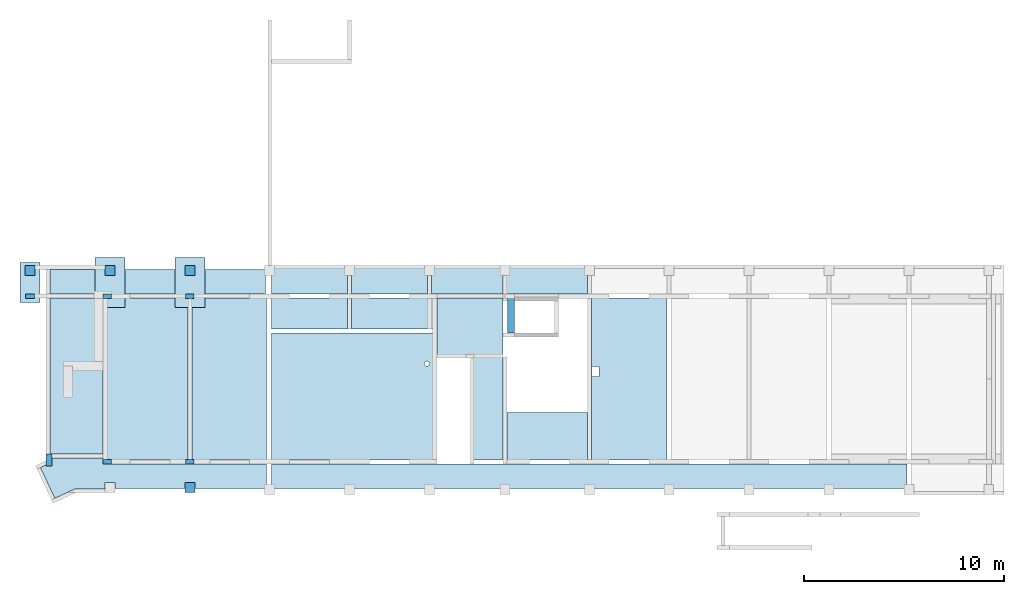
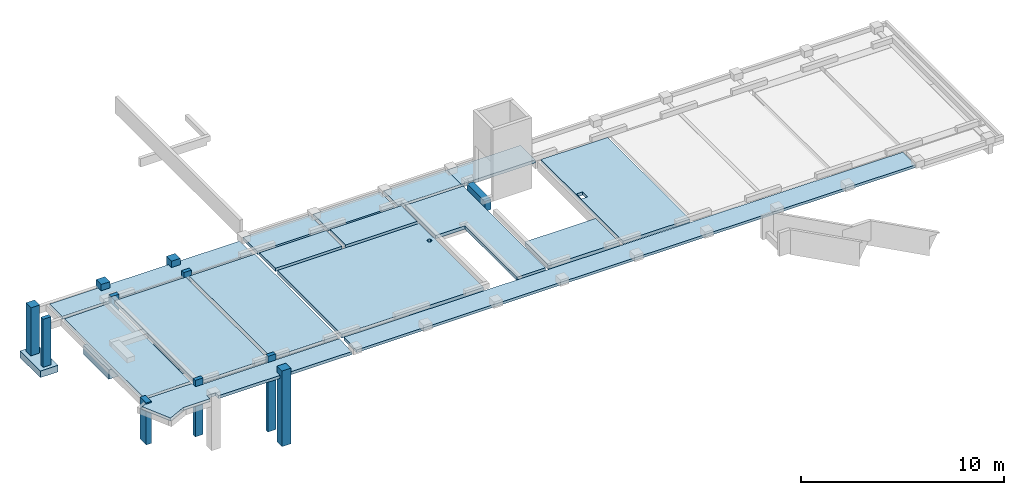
# One storey, part 3 of 5: 30 slabs, 2 openings.
"""IFC2X3 building model written with IfcOpenShell, lengths in metres."""

from ifc_helpers import new_model, entity, si_unit, converted_unit, derived_unit, direction, frame, frame_2d, origin, origin_2d_with_axis, place, context, subcontext, project, spatial, polyline, rectangle, circle, outline, extrude, clip, halfspace, bounded_halfspace, material, layer, layer_set, layer_usage, type_object, element, save


model = new_model("IFC2X3")

# Units and contexts
model_context = context("Model", 3, precision=1e-05, world=origin(), true_north=direction((6.12303176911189e-17, 1.0)))
body_context = subcontext(model_context, "Body", "Model", "MODEL_VIEW")
ifc_project = project(units=[si_unit("LENGTHUNIT", "METRE"), si_unit("AREAUNIT", "SQUARE_METRE"), si_unit("VOLUMEUNIT", "CUBIC_METRE"), converted_unit("PLANEANGLEUNIT", "DEGREE", entity("IfcRatioMeasure", 0.0174532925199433), si_unit("PLANEANGLEUNIT", "RADIAN"), dimensions=[0, 0, 0, 0, 0, 0, 0]), si_unit("MASSUNIT", "GRAM", prefix="KILO"), derived_unit("MASSDENSITYUNIT", [(si_unit("MASSUNIT", "GRAM", prefix="KILO"), 1), (si_unit("LENGTHUNIT", "METRE"), -3)]), si_unit("TIMEUNIT", "SECOND"), si_unit("FREQUENCYUNIT", "HERTZ"), si_unit("THERMODYNAMICTEMPERATUREUNIT", "DEGREE_CELSIUS"), derived_unit("THERMALTRANSMITTANCEUNIT", [(si_unit("MASSUNIT", "GRAM", prefix="KILO"), 1), (si_unit("THERMODYNAMICTEMPERATUREUNIT", "KELVIN"), -1), (si_unit("TIMEUNIT", "SECOND"), -3)]), derived_unit("VOLUMETRICFLOWRATEUNIT", [(si_unit("LENGTHUNIT", "METRE"), 3), (si_unit("TIMEUNIT", "SECOND"), -1)]), si_unit("ELECTRICCURRENTUNIT", "AMPERE"), si_unit("ELECTRICVOLTAGEUNIT", "VOLT"), si_unit("POWERUNIT", "WATT"), si_unit("FORCEUNIT", "NEWTON"), si_unit("ILLUMINANCEUNIT", "LUX"), si_unit("LUMINOUSFLUXUNIT", "LUMEN"), si_unit("LUMINOUSINTENSITYUNIT", "CANDELA"), derived_unit("USERDEFINED", [(si_unit("MASSUNIT", "GRAM", prefix="KILO"), -1), (si_unit("LENGTHUNIT", "METRE"), -2), (si_unit("TIMEUNIT", "SECOND"), 3), (si_unit("LUMINOUSFLUXUNIT", "LUMEN"), 1)]), derived_unit("LINEARVELOCITYUNIT", [(si_unit("LENGTHUNIT", "METRE"), 1), (si_unit("TIMEUNIT", "SECOND"), -1)]), si_unit("PRESSUREUNIT", "PASCAL"), derived_unit("USERDEFINED", [(si_unit("LENGTHUNIT", "METRE"), -2), (si_unit("MASSUNIT", "GRAM", prefix="KILO"), 1), (si_unit("TIMEUNIT", "SECOND"), -2)])], contexts=[model_context])

# Site, building, storey
site_placement = place(None, origin())
site = spatial("IfcSite", under=ifc_project, at=site_placement, Name="Default", CompositionType="ELEMENT")
building_placement = place(site_placement, origin())
building = spatial("IfcBuilding", under=site, at=building_placement, CompositionType="ELEMENT")
storey_placement = place(building_placement, origin())
storey = spatial("IfcBuildingStorey", under=building, at=storey_placement, Name="S01", CompositionType="ELEMENT", Elevation=0.0)

# Slabs
ifc_material_1 = material(Name="Sol par défaut")
ifc_layer_1 = layer(ifc_material_1, 0.2)
ifc_layer_set_1 = layer_set([ifc_layer_1], Name="Floor:Dalle BA ép.20")
ifc_layer_usage_1 = layer_usage(ifc_layer_set_1, "AXIS3", "POSITIVE", 0.0)
slab_type_1 = type_object("IfcSlabType", Name="Floor:Dalle BA ép.20", PredefinedType="FLOOR", material=ifc_layer_set_1)
slab_1_placement = place(storey_placement, origin())
element("IfcSlab", 1, at=slab_1_placement, inside=storey, type_object=slab_type_1, material=ifc_layer_usage_1, Name="Floor:Dalle BA ép.20", ObjectType="Floor:Dalle BA ép.20", PredefinedType="FLOOR", context=body_context, shape_type="SweptSolid", body=[
    extrude(rectangle(XDim=1.55799999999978, YDim=3.7999999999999, at=frame_2d((1.73194791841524e-14, 2.1094237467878e-15), x_axis=(1.0, 0.0))), frame((35.4897436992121, -185.935488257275, -0.00999999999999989), z_axis=(0.0, 0.0, -1.0), x_axis=(0.0, 1.0, 0.0)), (0.0, 0.0, 1.0), 0.2),
])
ifc_layer_usage_2 = layer_usage(ifc_layer_set_1, "AXIS3", "POSITIVE", 0.0)
slab_type_2 = type_object("IfcSlabType", Name="Floor:Dalle BA ép.20", PredefinedType="FLOOR", material=ifc_layer_set_1)
slab_2_placement = place(storey_placement, origin())
element("IfcSlab", 2, at=slab_2_placement, inside=storey, type_object=slab_type_2, material=ifc_layer_usage_2, Name="Floor:Dalle BA ép.20", ObjectType="Floor:Dalle BA ép.20", PredefinedType="FLOOR", context=body_context, shape_type="SweptSolid", body=[
    extrude(rectangle(XDim=1.55799999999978, YDim=4.07000000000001, at=frame_2d((-1.73194791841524e-14, -2.22044604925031e-15), x_axis=(1.0, 0.0))), frame((39.6247436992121, -185.935488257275, -0.00999999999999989), z_axis=(0.0, 0.0, -1.0), x_axis=(0.0, 1.0, 0.0)), (0.0, 0.0, 1.0), 0.2),
])

# Slab, opening
ifc_layer_2 = layer(ifc_material_1, 0.22)
ifc_layer_set_2 = layer_set([ifc_layer_2], Name="Floor:Dalle BA ép.22")
ifc_layer_usage_3 = layer_usage(ifc_layer_set_2, "AXIS3", "POSITIVE", 0.0)
slab_type_3 = type_object("IfcSlabType", Name="Floor:Dalle BA ép.22", PredefinedType="FLOOR", material=ifc_layer_set_2)
slab_3_placement = place(storey_placement, frame((33.5897436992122, -193.259651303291, -0.23)))
slab_3 = element("IfcSlab", 3, at=slab_3_placement, inside=storey, type_object=slab_type_3, material=ifc_layer_usage_3, Name="Floor:Dalle BA ép.22", ObjectType="Floor:Dalle BA ép.22", PredefinedType="FLOOR", context=body_context, shape_type="SweptSolid", body=[
    extrude(rectangle(XDim=6.34516304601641, YDim=8.06999999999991, at=frame_2d((0.0, 0.0), x_axis=(0.0, -1.0))), frame((4.03499999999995, 3.17258152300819, 0.22), z_axis=(0.0, 0.0, -1.0), x_axis=(-1.0, 0.0, 0.0)), (0.0, 0.0, 1.0), 0.22),
])
opening_1_placement = place(slab_3_placement, frame((7.76768381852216, 4.81810752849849, 0.22)))
element("IfcOpeningElement", 4, at=opening_1_placement, cuts=slab_3, Name="Floor:Dalle BA ép.22:2", ObjectType="Opening", context=body_context, shape_type="SweptSolid", body=[
    extrude(circle(Radius=0.124999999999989, at=origin_2d_with_axis()), frame((0.0, 0.0, 0.0), z_axis=(0.0, 0.0, -1.0), x_axis=(1.0, 0.0, 0.0)), (0.0, 0.0, 1.0), 0.22),
])

# Slabs
ifc_layer_usage_4 = layer_usage(ifc_layer_set_1, "AXIS3", "POSITIVE", 0.0)
slab_type_4 = type_object("IfcSlabType", Name="Floor:Dalle BA ép.20", PredefinedType="FLOOR", material=ifc_layer_set_1)
slab_4_placement = place(storey_placement, origin())
element("IfcSlab", 5, at=slab_4_placement, inside=storey, type_object=slab_type_4, material=ifc_layer_usage_4, Name="Floor:Dalle BA ép.20", ObjectType="Floor:Dalle BA ép.20", PredefinedType="FLOOR", context=body_context, shape_type="SweptSolid", body=[
    extrude(outline(polyline([(0.698945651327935, -1.66416666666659), (3.70210869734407, -1.66416666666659), (3.70210869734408, 1.64583333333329), (-4.40105434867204, 1.64583333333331), (-4.40105434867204, 0.0183333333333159), (0.698945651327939, 0.0183333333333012), (0.698945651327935, -1.66416666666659)])), frame((43.5239103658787, -188.858596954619, -0.06), z_axis=(0.0, 0.0, -1.0), x_axis=(0.0, 1.0, 0.0)), (0.0, 0.0, 1.0), 0.2),
])
ifc_layer_3 = layer(ifc_material_1, 0.16)
ifc_layer_set_3 = layer_set([ifc_layer_3], Name="Floor:Dalle BA ép.16")
ifc_layer_usage_5 = layer_usage(ifc_layer_set_3, "AXIS3", "POSITIVE", 0.0)
slab_type_5 = type_object("IfcSlabType", Name="Floor:Dalle BA ép.16", PredefinedType="FLOOR", material=ifc_layer_set_3)
slab_5_placement = place(storey_placement, origin())
element("IfcSlab", 6, at=slab_5_placement, inside=storey, type_object=slab_type_5, material=ifc_layer_usage_5, Name="Floor:Dalle BA ép.16", ObjectType="Floor:Dalle BA ép.16", PredefinedType="FLOOR", context=body_context, shape_type="Clipping", body=[
    clip(clip(extrude(rectangle(XDim=1.24182996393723, YDim=31.7999999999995, at=frame_2d((-1.73194791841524e-14, 4.44089209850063e-15), x_axis=(1.0, 0.0))), frame((49.4897436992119, -194.080485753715, -0.0700000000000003), z_axis=(0.0, 0.0161052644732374, -0.999870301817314), x_axis=(0.0, 0.999870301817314, 0.0161052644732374)), (-0.0161052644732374, 0.0, 0.999870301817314), 0.180023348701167), halfspace(frame((33.5897436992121, -194.701320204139, -0.24), z_axis=(0.0, 0.0, -1.0), x_axis=(0.0, 1.0, 0.0)), False)), halfspace(frame((49.4897436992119, -194.080485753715, -0.07), z_axis=(0.0, -0.0161052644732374, 0.999870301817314), x_axis=(0.0, 0.999870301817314, 0.0161052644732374)), False)),
])

# Slab, opening
ifc_layer_usage_6 = layer_usage(ifc_layer_set_1, "AXIS3", "POSITIVE", 0.0)
slab_type_6 = type_object("IfcSlabType", Name="Floor:Dalle BA ép.20", PredefinedType="FLOOR", material=ifc_layer_set_1)
slab_6_placement = place(storey_placement, frame((49.5897436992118, -193.259651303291, -0.21)))
slab_6 = element("IfcSlab", 7, at=slab_6_placement, inside=storey, type_object=slab_type_6, material=ifc_layer_usage_6, Name="Floor:Dalle BA ép.20", ObjectType="Floor:Dalle BA ép.20", PredefinedType="FLOOR", context=body_context, shape_type="SweptSolid", body=[
    extrude(rectangle(XDim=8.10316304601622, YDim=3.79999999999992, at=frame_2d((0.0, 0.0), x_axis=(0.0, 1.0))), frame((1.89999999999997, 4.05158152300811, 0.2), z_axis=(0.0, 0.0, -1.0), x_axis=(-1.0, 0.0, 0.0)), (0.0, 0.0, 1.0), 0.2),
])
opening_2_placement = place(slab_6_placement, frame((0.22196186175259, 4.4152200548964, 0.2)))
element("IfcOpeningElement", 8, at=opening_2_placement, cuts=slab_6, Name="Floor:Dalle BA ép.20:2", ObjectType="Opening", context=body_context, shape_type="SweptSolid", body=[
    extrude(rectangle(XDim=0.499999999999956, YDim=0.350000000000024, at=origin_2d_with_axis()), frame((0.0, 0.0, 0.0), z_axis=(0.0, 0.0, -1.0), x_axis=(0.0, -1.0, 0.0)), (0.0, 0.0, 1.0), 0.2),
])

# Slabs
ifc_layer_4 = layer(ifc_material_1, 0.18)
ifc_layer_set_4 = layer_set([ifc_layer_4], Name="Floor:Dalle BA ép.18")
ifc_layer_usage_7 = layer_usage(ifc_layer_set_4, "AXIS3", "POSITIVE", 0.0)
slab_type_7 = type_object("IfcSlabType", Name="Floor:Dalle BA ép.18", PredefinedType="FLOOR", material=ifc_layer_set_4)
slab_7_placement = place(storey_placement, origin())
element("IfcSlab", 9, at=slab_7_placement, inside=storey, type_object=slab_type_7, material=ifc_layer_usage_7, Name="Floor:Dalle BA ép.18", ObjectType="Floor:Dalle BA ép.18", PredefinedType="FLOOR", context=body_context, shape_type="SweptSolid", body=[
    extrude(rectangle(XDim=1.44166921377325, YDim=4.21999999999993, at=frame_2d((1.73194791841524e-14, -4.44089209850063e-15), x_axis=(1.0, 0.0))), frame((47.2797436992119, -184.235653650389, -0.08), z_axis=(0.0, 0.0, -1.0), x_axis=(0.0, 1.0, 0.0)), (0.0, 0.0, 1.0), 0.18),
])
ifc_layer_usage_8 = layer_usage(ifc_layer_set_4, "AXIS3", "POSITIVE", 0.0)
slab_type_8 = type_object("IfcSlabType", Name="Floor:Dalle BA ép.18", PredefinedType="FLOOR", material=ifc_layer_set_4)
slab_8_placement = place(storey_placement, origin())
element("IfcSlab", 10, at=slab_8_placement, inside=storey, type_object=slab_type_8, material=ifc_layer_usage_8, Name="Floor:Dalle BA ép.18", ObjectType="Floor:Dalle BA ép.18", PredefinedType="FLOOR", context=body_context, shape_type="SweptSolid", body=[
    extrude(rectangle(XDim=1.44166921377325, YDim=3.58000000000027, at=frame_2d((1.73194791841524e-14, -4.32986979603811e-15), x_axis=(1.0, 0.0))), frame((43.3797436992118, -184.235653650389, -0.08), z_axis=(0.0, 0.0, -1.0), x_axis=(0.0, 1.0, 0.0)), (0.0, 0.0, 1.0), 0.18),
])
ifc_layer_usage_9 = layer_usage(ifc_layer_set_4, "AXIS3", "POSITIVE", 0.0)
slab_type_9 = type_object("IfcSlabType", Name="Floor:Dalle BA ép.18", PredefinedType="FLOOR", material=ifc_layer_set_4)
slab_9_placement = place(storey_placement, origin())
element("IfcSlab", 11, at=slab_9_placement, inside=storey, type_object=slab_type_9, material=ifc_layer_usage_9, Name="Floor:Dalle BA ép.18", ObjectType="Floor:Dalle BA ép.18", PredefinedType="FLOOR", context=body_context, shape_type="SweptSolid", body=[
    extrude(rectangle(XDim=1.44166921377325, YDim=3.80000000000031, at=frame_2d((1.73194791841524e-14, -4.32986979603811e-15), x_axis=(1.0, 0.0))), frame((39.4897436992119, -184.235653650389, -0.08), z_axis=(0.0, 0.0, -1.0), x_axis=(0.0, 1.0, 0.0)), (0.0, 0.0, 1.0), 0.18),
])
ifc_layer_usage_10 = layer_usage(ifc_layer_set_4, "AXIS3", "POSITIVE", 0.0)
slab_type_10 = type_object("IfcSlabType", Name="Floor:Dalle BA ép.18", PredefinedType="FLOOR", material=ifc_layer_set_4)
slab_10_placement = place(storey_placement, origin())
element("IfcSlab", 12, at=slab_10_placement, inside=storey, type_object=slab_type_10, material=ifc_layer_usage_10, Name="Floor:Dalle BA ép.18", ObjectType="Floor:Dalle BA ép.18", PredefinedType="FLOOR", context=body_context, shape_type="Clipping", body=[
    clip(clip(extrude(rectangle(XDim=1.44180793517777, YDim=3.79999999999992, at=frame_2d((1.73194791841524e-14, 2.1094237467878e-15), x_axis=(1.0, 0.0))), frame((35.4897436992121, -184.235653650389, -0.0700000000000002), z_axis=(0.0, -0.0138714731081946, -0.999903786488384), x_axis=(0.0, 0.999903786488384, -0.0138714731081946)), (0.0138714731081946, 0.0, 0.999903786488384), 0.200019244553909), halfspace(frame((37.3897436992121, -183.514819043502, -0.26), z_axis=(0.0, 0.0, -1.0), x_axis=(1.0, 0.0, 0.0)), False)), halfspace(frame((35.4897436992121, -184.235653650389, -0.07), z_axis=(0.0, 0.0138714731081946, 0.999903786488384), x_axis=(1.0, 0.0, 0.0)), False)),
])
ifc_material_2 = material(Name="Béton - Béton coulé sur place")
slab_type_11 = type_object("IfcSlabType", Name="50x50x515ht", PredefinedType="FLOOR", material=ifc_material_2)
slab_11_placement = place(storey_placement, origin())
element("IfcSlab", 13, at=slab_11_placement, inside=storey, type_object=slab_type_11, Name="M_Base-Rectangulaire:50x50x515ht", ObjectType="M_Base-Rectangulaire:50x50x515ht", PredefinedType="FLOOR", context=body_context, shape_type="SweptSolid", body=[
    extrude(rectangle(XDim=0.499999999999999, YDim=0.49999999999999, at=frame_2d((0.0, -1.73333569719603e-14), x_axis=(1.0, 0.0))), frame((29.4897436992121, -183.764819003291, -4.85), z_axis=(0.0, 0.0, 1.0), x_axis=(-1.0, 0.0, 0.0)), (0.0, 0.0, 1.0), 5.15),
])
slab_type_12 = type_object("IfcSlabType", Name="50x50x400ht", PredefinedType="FLOOR", material=ifc_material_2)
slab_12_placement = place(storey_placement, origin())
element("IfcSlab", 14, at=slab_12_placement, inside=storey, type_object=slab_type_12, Name="M_Base-Rectangulaire:50x50x400ht", ObjectType="M_Base-Rectangulaire:50x50x400ht", PredefinedType="FLOOR", context=body_context, shape_type="SweptSolid", body=[
    extrude(rectangle(XDim=0.499999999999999, YDim=0.49999999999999, at=frame_2d((0.0, -1.73333569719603e-14), x_axis=(1.0, 0.0))), frame((25.4897436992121, -183.764819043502, -3.7), z_axis=(0.0, 0.0, 1.0), x_axis=(-1.0, 0.0, 0.0)), (0.0, 0.0, 1.0), 4.0),
])
slab_type_13 = type_object("IfcSlabType", Name="150x250x55ht", PredefinedType="FLOOR", material=ifc_material_2)
slab_13_placement = place(storey_placement, origin())
element("IfcSlab", 15, at=slab_13_placement, inside=storey, type_object=slab_type_13, Name="M_Base-Rectangulaire:150x250x55ht", ObjectType="M_Base-Rectangulaire:150x250x55ht", PredefinedType="FLOOR", context=body_context, shape_type="SweptSolid", body=[
    extrude(rectangle(XDim=1.5, YDim=2.49999999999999, at=frame_2d((-2.16493489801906e-15, 0.0), x_axis=(1.0, 0.0))), frame((25.4897436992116, -184.373153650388, -4.25), z_axis=(0.0, 0.0, 1.0), x_axis=(-1.0, 0.0, 0.0)), (0.0, 0.0, 1.0), 0.55),
])
slab_type_14 = type_object("IfcSlabType", Name="150x250x55ht", PredefinedType="FLOOR", material=ifc_material_2)
slab_14_placement = place(storey_placement, origin())
element("IfcSlab", 16, at=slab_14_placement, inside=storey, type_object=slab_type_14, Name="M_Base-Rectangulaire:150x250x55ht", ObjectType="M_Base-Rectangulaire:150x250x55ht", PredefinedType="FLOOR", context=body_context, shape_type="SweptSolid", body=[
    extrude(rectangle(XDim=1.5, YDim=2.49999999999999, at=frame_2d((2.16493489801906e-15, 0.0), x_axis=(1.0, 0.0))), frame((29.4897436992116, -184.373153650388, -5.4), z_axis=(0.0, 0.0, 1.0), x_axis=(-1.0, 0.0, 0.0)), (0.0, 0.0, 1.0), 0.55),
])
slab_type_15 = type_object("IfcSlabType", Name="100x200x40ht", PredefinedType="FLOOR", material=ifc_material_2)
slab_15_placement = place(storey_placement, origin())
element("IfcSlab", 17, at=slab_15_placement, inside=storey, type_object=slab_type_15, Name="M_Base-Rectangulaire:100x200x40ht", ObjectType="M_Base-Rectangulaire:100x200x40ht", PredefinedType="FLOOR", context=body_context, shape_type="SweptSolid", body=[
    extrude(rectangle(XDim=0.999999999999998, YDim=2.0, at=frame_2d((0.0, -1.73749903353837e-14), x_axis=(1.0, 0.0))), frame((21.4897436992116, -184.373153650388, -2.99), z_axis=(0.0, 0.0, 1.0), x_axis=(-1.0, 0.0, 0.0)), (0.0, 0.0, 1.0), 0.4),
])
slab_type_16 = type_object("IfcSlabType", Name="50x50x289ht", PredefinedType="FLOOR", material=ifc_material_2)
slab_16_placement = place(storey_placement, origin())
element("IfcSlab", 18, at=slab_16_placement, inside=storey, type_object=slab_type_16, Name="M_Base-Rectangulaire:50x50x289ht", ObjectType="M_Base-Rectangulaire:50x50x289ht", PredefinedType="FLOOR", context=body_context, shape_type="SweptSolid", body=[
    extrude(rectangle(XDim=0.499999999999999, YDim=0.49999999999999, at=frame_2d((0.0, -1.73333569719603e-14), x_axis=(1.0, 0.0))), frame((21.4897436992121, -183.764819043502, -2.59), z_axis=(0.0, 0.0, 1.0), x_axis=(-1.0, 0.0, 0.0)), (0.0, 0.0, 1.0), 2.89),
])
slab_type_17 = type_object("IfcSlabType", Name="50x50x455ht", PredefinedType="FLOOR", material=ifc_material_2)
slab_17_placement = place(storey_placement, origin())
element("IfcSlab", 19, at=slab_17_placement, inside=storey, type_object=slab_type_17, Name="M_Base-Rectangulaire:50x50x455ht", ObjectType="M_Base-Rectangulaire:50x50x455ht", PredefinedType="FLOOR", context=body_context, shape_type="SweptSolid", body=[
    extrude(rectangle(XDim=0.49999999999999, YDim=0.499999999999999, at=frame_2d((1.73333569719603e-14, -2.16493489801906e-15), x_axis=(1.0, 0.0))), frame((29.4897436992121, -194.65132020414, -4.24879999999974), z_axis=(0.0, 0.0, 1.0), x_axis=(0.0, 1.0, 0.0)), (0.0, 0.0, 1.0), 4.54879999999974),
])
ifc_layer_5 = layer(ifc_material_1, 0.25)
ifc_layer_set_5 = layer_set([ifc_layer_5], Name="Floor:Dalle BA ép.25")
ifc_layer_usage_11 = layer_usage(ifc_layer_set_5, "AXIS3", "POSITIVE", 0.0)
slab_type_18 = type_object("IfcSlabType", Name="Floor:Dalle BA ép.25", PredefinedType="FLOOR", material=ifc_layer_set_5)
slab_18_placement = place(storey_placement, origin())
element("IfcSlab", 20, at=slab_18_placement, inside=storey, type_object=slab_type_18, material=ifc_layer_usage_11, Name="Floor:Dalle BA ép.25", ObjectType="Floor:Dalle BA ép.25", PredefinedType="FLOOR", context=body_context, shape_type="SweptSolid", body=[
    extrude(rectangle(XDim=2.37221123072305, YDim=4.01999999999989, at=frame_2d((-1.7430501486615e-14, -4.21884749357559e-15), x_axis=(1.0, 0.0))), frame((47.3797436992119, -192.07354568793, -0.00999999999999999), z_axis=(0.0, 0.0, -1.0), x_axis=(0.0, 1.0, 0.0)), (0.0, 0.0, 1.0), 0.25),
])
slab_type_19 = type_object("IfcSlabType", Name="22x44x515ht", PredefinedType="FLOOR", material=ifc_material_2)
slab_19_placement = place(storey_placement, origin())
element("IfcSlab", 21, at=slab_19_placement, inside=storey, type_object=slab_type_19, Name="M_Base-Rectangulaire:22x44x515ht", ObjectType="M_Base-Rectangulaire:22x44x515ht", PredefinedType="FLOOR", context=body_context, shape_type="SweptSolid", body=[
    extrude(rectangle(XDim=0.44, YDim=0.219999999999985, at=frame_2d((-2.16493489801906e-15, 1.73264180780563e-14), x_axis=(1.0, 0.0))), frame((29.4897436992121, -185.056488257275, -4.85), z_axis=(0.0, 0.0, 1.0), x_axis=(-1.0, 0.0, 0.0)), (0.0, 0.0, 1.0), 5.15),
])
slab_type_20 = type_object("IfcSlabType", Name="22x44x400ht", PredefinedType="FLOOR", material=ifc_material_2)
slab_20_placement = place(storey_placement, origin())
element("IfcSlab", 22, at=slab_20_placement, inside=storey, type_object=slab_type_20, Name="M_Base-Rectangulaire:22x44x400ht", ObjectType="M_Base-Rectangulaire:22x44x400ht", PredefinedType="FLOOR", context=body_context, shape_type="SweptSolid", body=[
    extrude(rectangle(XDim=0.219999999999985, YDim=0.44, at=frame_2d((0.0, 2.16493489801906e-15), x_axis=(1.0, 0.0))), frame((25.3617436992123, -185.056488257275, -3.7), z_axis=(0.0, 0.0, 1.0), x_axis=(0.0, 1.0, 0.0)), (0.0, 0.0, 1.0), 4.0),
])
slab_type_21 = type_object("IfcSlabType", Name="22x44x455ht", PredefinedType="FLOOR", material=ifc_material_2)
slab_21_placement = place(storey_placement, origin())
element("IfcSlab", 23, at=slab_21_placement, inside=storey, type_object=slab_type_21, Name="M_Base-Rectangulaire:22x44x455ht", ObjectType="M_Base-Rectangulaire:22x44x455ht", PredefinedType="FLOOR", context=body_context, shape_type="SweptSolid", body=[
    extrude(rectangle(XDim=0.219999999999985, YDim=0.44, at=frame_2d((-1.73264180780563e-14, -2.16493489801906e-15), x_axis=(1.0, 0.0))), frame((29.4897436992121, -193.359651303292, -4.24879999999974), z_axis=(0.0, 0.0, 1.0), x_axis=(0.0, -1.0, 0.0)), (0.0, 0.0, 1.0), 4.54879999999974),
])
slab_type_22 = type_object("IfcSlabType", Name="22x44x340ht", PredefinedType="FLOOR", material=ifc_material_2)
slab_22_placement = place(storey_placement, origin())
element("IfcSlab", 24, at=slab_22_placement, inside=storey, type_object=slab_type_22, Name="M_Base-Rectangulaire:22x44x340ht", ObjectType="M_Base-Rectangulaire:22x44x340ht", PredefinedType="FLOOR", context=body_context, shape_type="SweptSolid", body=[
    extrude(rectangle(XDim=0.44, YDim=0.219999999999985, at=frame_2d((-2.16493489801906e-15, 1.73264180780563e-14), x_axis=(1.0, 0.0))), frame((25.3617436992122, -193.359651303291, -3.09879999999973), z_axis=(0.0, 0.0, 1.0), x_axis=(-1.0, 0.0, 0.0)), (0.0, 0.0, 1.0), 3.39879999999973),
])
slab_type_23 = type_object("IfcSlabType", Name="30x60x252ht", PredefinedType="FLOOR", material=ifc_material_2)
slab_23_placement = place(storey_placement, origin())
element("IfcSlab", 25, at=slab_23_placement, inside=storey, type_object=slab_type_23, Name="M_Base-Rectangulaire:30x60x252ht", ObjectType="M_Base-Rectangulaire:30x60x252ht", PredefinedType="FLOOR", context=body_context, shape_type="SweptSolid", body=[
    extrude(rectangle(XDim=0.600000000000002, YDim=0.300000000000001, at=origin_2d_with_axis()), frame((22.4345176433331, -193.264651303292, -2.52), z_axis=(0.0, 0.0, 1.0), x_axis=(0.0, 1.0, 0.0)), (0.0, 0.0, 1.0), 2.52),
])
slab_type_24 = type_object("IfcSlabType", Name="22x44x289ht", PredefinedType="FLOOR", material=ifc_material_2)
slab_24_placement = place(storey_placement, origin())
element("IfcSlab", 26, at=slab_24_placement, inside=storey, type_object=slab_type_24, Name="M_Base-Rectangulaire:22x44x289ht", ObjectType="M_Base-Rectangulaire:22x44x289ht", PredefinedType="FLOOR", context=body_context, shape_type="SweptSolid", body=[
    extrude(rectangle(XDim=0.44, YDim=0.219999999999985, at=frame_2d((-2.16493489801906e-15, 1.73264180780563e-14), x_axis=(1.0, 0.0))), frame((21.4897436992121, -185.056488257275, -2.59), z_axis=(0.0, 0.0, 1.0), x_axis=(-1.0, 0.0, 0.0)), (0.0, 0.0, 1.0), 2.89),
])
ifc_layer_usage_12 = layer_usage(ifc_layer_set_1, "AXIS3", "POSITIVE", 0.0)
slab_type_25 = type_object("IfcSlabType", Name="Floor:Dalle BA ép.20", PredefinedType="FLOOR", material=ifc_layer_set_1)
slab_25_placement = place(storey_placement, origin())
element("IfcSlab", 27, at=slab_25_placement, inside=storey, type_object=slab_type_25, material=ifc_layer_usage_12, Name="Floor:Dalle BA ép.20", ObjectType="Floor:Dalle BA ép.20", PredefinedType="FLOOR", context=body_context, shape_type="SweptSolid", body=[
    extrude(rectangle(XDim=8.10316304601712, YDim=3.74000000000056, at=frame_2d((0.0, -4.32986979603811e-15), x_axis=(1.0, 0.0))), frame((31.4597436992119, -189.208069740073, -0.00999999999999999), z_axis=(0.0, 0.0, -1.0), x_axis=(0.0, 1.0, 0.0)), (0.0, 0.0, 1.0), 0.2),
])
ifc_layer_usage_13 = layer_usage(ifc_layer_set_1, "AXIS3", "POSITIVE", 0.0)
slab_type_26 = type_object("IfcSlabType", Name="Floor:Dalle BA ép.20", PredefinedType="FLOOR", material=ifc_layer_set_1)
slab_26_placement = place(storey_placement, origin())
element("IfcSlab", 28, at=slab_26_placement, inside=storey, type_object=slab_type_26, material=ifc_layer_usage_13, Name="Floor:Dalle BA ép.20", ObjectType="Floor:Dalle BA ép.20", PredefinedType="FLOOR", context=body_context, shape_type="SweptSolid", body=[
    extrude(rectangle(XDim=8.10316304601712, YDim=4.04799999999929, at=frame_2d((0.0, -2.22044604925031e-15), x_axis=(1.0, 0.0))), frame((27.3657436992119, -189.208069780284, -0.00999999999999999), z_axis=(0.0, 0.0, -1.0), x_axis=(0.0, 1.0, 0.0)), (0.0, 0.0, 1.0), 0.2),
])
ifc_layer_usage_14 = layer_usage(ifc_layer_set_4, "AXIS3", "POSITIVE", 0.0)
slab_type_27 = type_object("IfcSlabType", Name="Floor:Dalle BA ép.18", PredefinedType="FLOOR", material=ifc_layer_set_4)
slab_27_placement = place(storey_placement, origin())
element("IfcSlab", 29, at=slab_27_placement, inside=storey, type_object=slab_type_27, material=ifc_layer_usage_14, Name="Floor:Dalle BA ép.18", ObjectType="Floor:Dalle BA ép.18", PredefinedType="FLOOR", context=body_context, shape_type="Clipping", body=[
    clip(clip(extrude(rectangle(XDim=2.65752710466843, YDim=7.80816304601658, at=frame_2d((0.0, 0.0), x_axis=(0.0, 1.0))), frame((23.8131306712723, -189.060569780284, -0.08), z_axis=(0.0150515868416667, 0.0, -0.999886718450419), x_axis=(0.0, 1.0, 0.0)), (0.0, -0.0150515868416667, 0.999886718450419), 0.220024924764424), halfspace(frame((25.1417436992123, -185.156488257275, -0.28), z_axis=(0.0, 0.0, -1.0), x_axis=(0.0, -1.0, 0.0)), False)), halfspace(frame((23.8131306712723, -189.060569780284, -0.08), z_axis=(-0.0150515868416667, 0.0, 0.999886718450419), x_axis=(0.0, -1.0, 0.0)), False)),
])
ifc_layer_usage_15 = layer_usage(ifc_layer_set_4, "AXIS3", "POSITIVE", 0.0)
slab_type_28 = type_object("IfcSlabType", Name="Floor:Dalle BA ép.18", PredefinedType="FLOOR", material=ifc_layer_set_4)
slab_28_placement = place(storey_placement, origin())
element("IfcSlab", 30, at=slab_28_placement, inside=storey, type_object=slab_type_28, material=ifc_layer_usage_15, Name="Floor:Dalle BA ép.18", ObjectType="Floor:Dalle BA ép.18", PredefinedType="FLOOR", context=body_context, shape_type="SweptSolid", body=[
    extrude(outline(polyline([(-0.306944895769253, -5.66753767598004), (0.934724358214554, -5.66753767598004), (0.934724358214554, 5.13768837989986), (-0.306944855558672, 5.13768837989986), (-0.306944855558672, 2.38246232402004), (-0.00694485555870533, 2.38246232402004), (-0.00694485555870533, 1.88246232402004), (-0.306944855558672, 1.88246232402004), (-0.306944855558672, -1.61753767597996), (-0.0069448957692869, -1.61753767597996), (-0.0069448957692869, -2.11753767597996), (-0.306944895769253, -2.11753767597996), (-0.306944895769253, -5.66753767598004)])), frame((27.6222060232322, -184.021763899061, -0.0799999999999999), z_axis=(0.0, 0.0, -1.0), x_axis=(0.0, -1.0, 0.0)), (0.0, 0.0, 1.0), 0.18),
])
ifc_layer_usage_16 = layer_usage(ifc_layer_set_4, "AXIS3", "POSITIVE", 0.0)
slab_type_29 = type_object("IfcSlabType", Name="Floor:Dalle BA ép.18", PredefinedType="FLOOR", material=ifc_layer_set_4)
slab_29_placement = place(storey_placement, origin())
solid = clip(clip(clip(clip(clip(clip(clip(clip(extrude(outline(polyline([(-0.675405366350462, -7.2735771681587), (0.566263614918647, -7.2735771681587), (0.566263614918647, -3.68357716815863), (0.266263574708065, -3.68357716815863), (0.266263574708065, -3.18357716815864), (0.566263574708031, -3.18357716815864), (0.566263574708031, 0.316422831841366), (0.266263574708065, 0.316422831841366), (0.266263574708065, 0.816422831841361), (0.586263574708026, 0.816422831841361), (0.586263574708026, 2.32835375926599), (1.0503503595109, 3.3262990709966), (-0.496559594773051, 4.04567763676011), (-0.623994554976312, 3.77164888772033), (-0.570405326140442, 3.77164888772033), (-0.570405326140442, 3.47164888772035), (-0.97040532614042, 3.47164888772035), (-0.97040532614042, 0.914422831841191), (-0.675405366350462, 0.914422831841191), (-0.675405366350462, -7.2735771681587)])), frame((26.0561665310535, -194.135056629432, -0.06), z_axis=(0.0, 0.0, -1.0), x_axis=(0.0, -1.0, 0.0)), (0.0, 0.0, 1.0), 0.2), bounded_halfspace(frame((22.1931747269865, -193.571403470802, -0.0766666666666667), z_axis=(-0.0849978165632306, 0.182774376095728, 0.97947378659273), x_axis=(0.0, 0.983031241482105, -0.183438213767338)), False, frame((26.0561665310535, -194.135056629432, -0.06), z_axis=(0.0, 0.0, -1.0), x_axis=(0.0, -1.0, 0.0)), polyline([(-0.570405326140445, 3.77164888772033), (-0.623994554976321, 3.77164888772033), (-0.496559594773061, 4.04567763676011), (-0.570405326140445, 3.77164888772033)]))), bounded_halfspace(frame((24.2893350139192, -193.262984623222, -0.0666666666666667), z_axis=(0.0, -0.0676413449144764, 0.99770970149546), x_axis=(-1.0, 0.0, 0.0)), False, frame((26.0561665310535, -194.135056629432, -0.06), z_axis=(0.0, 0.0, -1.0), x_axis=(0.0, -1.0, 0.0)), polyline([(-0.970405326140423, 0.914422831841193), (-0.970405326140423, 3.47164888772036), (-0.675405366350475, 0.914422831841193), (-0.970405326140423, 0.914422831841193)]))), bounded_halfspace(frame((22.3416246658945, -194.129518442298, -0.0766666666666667), z_axis=(-0.0324078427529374, -0.0150710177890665, 0.999361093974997), x_axis=(-0.964956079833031, -0.260037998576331, -0.0352136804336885)), False, frame((26.0561665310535, -194.135056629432, -0.06), z_axis=(0.0, 0.0, -1.0), x_axis=(0.0, -1.0, 0.0)), polyline([(-0.570405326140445, 3.77164888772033), (-0.496559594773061, 4.04567763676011), (1.0503503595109, 3.3262990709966), (-0.570405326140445, 3.77164888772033)]))), bounded_halfspace(frame((23.4369263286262, -193.396317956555, -0.07), z_axis=(0.00493538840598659, -0.024991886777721, 0.999675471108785), x_axis=(0.0, -0.999687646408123, -0.0249921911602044)), False, frame((26.0561665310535, -194.135056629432, -0.06), z_axis=(0.0, 0.0, -1.0), x_axis=(0.0, -1.0, 0.0)), polyline([(-0.970405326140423, 3.47164888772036), (-0.570405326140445, 3.47164888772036), (-0.675405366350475, 0.914422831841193), (-0.970405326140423, 3.47164888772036)]))), bounded_halfspace(frame((30.7697436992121, -194.087430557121, -0.0733333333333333), z_axis=(0.0, -0.0212340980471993, 0.999774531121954), x_axis=(-0.974493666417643, -0.224364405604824, -0.00476525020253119)), False, frame((26.0561665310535, -194.135056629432, -0.06), z_axis=(0.0, 0.0, -1.0), x_axis=(0.0, -1.0, 0.0)), polyline([(-0.675405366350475, -7.2735771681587), (0.266263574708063, -3.18357716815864), (0.266263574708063, -3.68357716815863), (-0.675405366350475, -7.2735771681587)]))), bounded_halfspace(frame((32.1330770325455, -194.187430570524, -0.0733333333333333), z_axis=(-0.00134584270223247, -0.0161052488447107, 0.999869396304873), x_axis=(-0.967263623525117, -0.25371646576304, -0.00538865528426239)), False, frame((26.0561665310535, -194.135056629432, -0.06), z_axis=(0.0, 0.0, -1.0), x_axis=(0.0, -1.0, 0.0)), polyline([(-0.675405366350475, -7.2735771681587), (0.266263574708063, -3.68357716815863), (0.566263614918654, -7.2735771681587), (-0.675405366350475, -7.2735771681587)]))), bounded_halfspace(frame((29.2370770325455, -193.773540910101, -0.0733333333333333), z_axis=(-0.0024424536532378, -0.0106291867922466, 0.999940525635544), x_axis=(-0.999997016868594, 0.0, -0.00244259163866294)), False, frame((26.0561665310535, -194.135056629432, -0.06), z_axis=(0.0, 0.0, -1.0), x_axis=(0.0, -1.0, 0.0)), polyline([(-0.675405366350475, -7.2735771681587), (-0.675405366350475, 0.914422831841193), (0.266263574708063, -3.18357716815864), (-0.675405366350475, -7.2735771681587)]))), bounded_halfspace(frame((23.0140659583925, -194.490459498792, -0.0766666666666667), z_axis=(0.00275436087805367, -0.00592281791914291, 0.999978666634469), x_axis=(0.0893201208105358, -0.995984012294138, -0.00614518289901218)), False, frame((26.0561665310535, -194.135056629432, -0.06), z_axis=(0.0, 0.0, -1.0), x_axis=(0.0, -1.0, 0.0)), polyline([(-0.570405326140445, 3.47164888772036), (1.0503503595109, 3.3262990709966), (0.586263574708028, 2.32835375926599), (-0.570405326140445, 3.47164888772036)])))
element("IfcSlab", 31, at=slab_29_placement, inside=storey, type_object=slab_type_29, material=ifc_layer_usage_16, Name="Floor:Dalle BA ép.18", ObjectType="Floor:Dalle BA ép.18", PredefinedType="FLOOR", context=body_context, shape_type="Clipping", body=[
    clip(clip(clip(clip(solid, bounded_halfspace(frame((22.532967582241, -194.104903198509, -0.0733333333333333), z_axis=(0.0, -0.00616984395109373, 0.999980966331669), x_axis=(-1.0, 0.0, 0.0)), False, frame((26.0561665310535, -194.135056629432, -0.06), z_axis=(0.0, 0.0, -1.0), x_axis=(0.0, -1.0, 0.0)), polyline([(-0.570405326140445, 3.47164888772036), (-0.570405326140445, 3.77164888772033), (1.0503503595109, 3.3262990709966), (-0.570405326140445, 3.47164888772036)]))), bounded_halfspace(frame((23.8180247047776, -193.915207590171, -0.0766666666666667), z_axis=(0.00409903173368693, -0.00459371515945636, 0.999981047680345), x_axis=(0.702969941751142, -0.711192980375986, -0.00614863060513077)), False, frame((26.0561665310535, -194.135056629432, -0.06), z_axis=(0.0, 0.0, -1.0), x_axis=(0.0, -1.0, 0.0)), polyline([(-0.570405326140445, 3.47164888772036), (0.586263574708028, 2.32835375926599), (-0.675405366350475, 0.914422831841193), (-0.570405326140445, 3.47164888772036)]))), bounded_halfspace(frame((26.163502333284, -194.438611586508, -0.08)), False, frame((26.0561665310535, -194.135056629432, -0.06), z_axis=(0.0, 0.0, -1.0), x_axis=(0.0, -1.0, 0.0)), polyline([(0.586263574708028, 2.32835375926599), (0.586263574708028, 0.816422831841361), (0.266263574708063, 0.816422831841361), (0.266263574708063, 0.316422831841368), (0.566263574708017, 0.316422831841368), (0.566263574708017, -3.18357716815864), (0.266263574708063, -3.18357716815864), (-0.675405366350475, 0.914422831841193), (0.586263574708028, 2.32835375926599)]))), bounded_halfspace(frame((30.9364103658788, -194.601320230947, -0.08), z_axis=(0.0, 0.0, 1.0), x_axis=(0.0, -1.0, 0.0)), False, frame((26.0561665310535, -194.135056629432, -0.06), z_axis=(0.0, 0.0, -1.0), x_axis=(0.0, -1.0, 0.0)), polyline([(0.266263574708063, -3.68357716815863), (0.566263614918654, -3.68357716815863), (0.566263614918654, -7.2735771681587), (0.266263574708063, -3.68357716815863)]))),
])
ifc_layer_6 = layer(ifc_material_1, 0.6)
ifc_layer_set_6 = layer_set([ifc_layer_6], Name="Floor:Dalle BA ép.60")
ifc_layer_usage_17 = layer_usage(ifc_layer_set_6, "AXIS3", "POSITIVE", 0.0)
slab_type_30 = type_object("IfcSlabType", Name="Floor:Dalle BA ép.60", PredefinedType="FLOOR", material=ifc_layer_set_6)
slab_30_placement = place(storey_placement, origin())
element("IfcSlab", 32, at=slab_30_placement, inside=storey, type_object=slab_type_30, material=ifc_layer_usage_17, Name="Floor:Dalle BA ép.60", ObjectType="Floor:Dalle BA ép.60", PredefinedType="FLOOR", context=body_context, shape_type="SweptSolid", body=[
    extrude(rectangle(XDim=1.74999999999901, YDim=0.360000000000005, at=frame_2d((3.46944695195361e-14, -4.32986979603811e-15), x_axis=(1.0, 0.0))), frame((45.569743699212, -186.031488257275, 0.0), z_axis=(0.0, 0.0, -1.0), x_axis=(0.0, 1.0, 0.0)), (0.0, 0.0, 1.0), 0.6),
])

save(model, "model.ifc")
